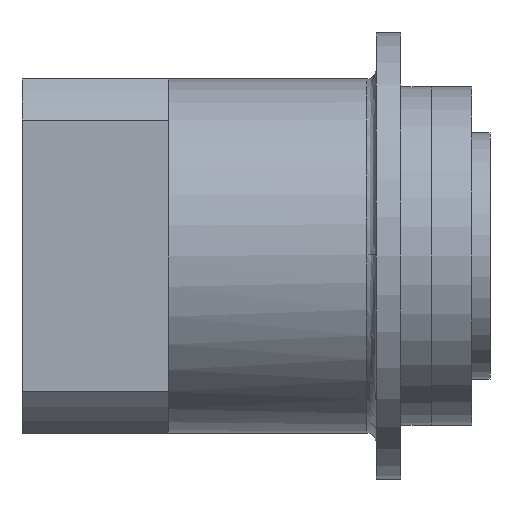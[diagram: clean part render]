
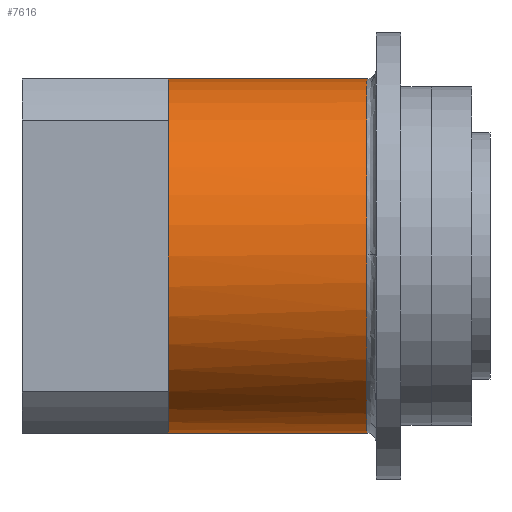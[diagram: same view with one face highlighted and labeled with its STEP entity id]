
A CAD part, left-side view. The second image highlights one B-rep face of the part: STEP entity #7616.
In plain terms, the highlighted cylindrical face has radius 57.5 mm (diameter 115 mm), a partial arc.
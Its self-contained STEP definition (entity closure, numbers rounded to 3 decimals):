
#65 = LINE ( 'NONE', #75, #2242 ) ;
#71 = CARTESIAN_POINT ( 'NONE',  ( 0., 5.225, -57.5 ) ) ;
#75 = CARTESIAN_POINT ( 'NONE',  ( 0., 5.225, 57.5 ) ) ;
#76 = LINE ( 'NONE', #71, #2250 ) ;
#80 = DIRECTION ( 'NONE',  ( 0., -1., 0. ) ) ;
#84 = DIRECTION ( 'NONE',  ( 0., -1., 0. ) ) ;
#1287 = EDGE_LOOP ( 'NONE', ( #1656, #1655, #1654, #1653, #1652, #1651 ) ) ;
#1651 = ORIENTED_EDGE ( 'NONE', *, *, #7602, .T. ) ;
#1652 = ORIENTED_EDGE ( 'NONE', *, *, #8186, .T. ) ;
#1653 = ORIENTED_EDGE ( 'NONE', *, *, #8383, .T. ) ;
#1654 = ORIENTED_EDGE ( 'NONE', *, *, #8190, .T. ) ;
#1655 = ORIENTED_EDGE ( 'NONE', *, *, #8187, .T. ) ;
#1656 = ORIENTED_EDGE ( 'NONE', *, *, #8385, .F. ) ;
#1841 = CARTESIAN_POINT ( 'NONE',  ( 0., -64.5, 0. ) ) ;
#1842 = DIRECTION ( 'NONE',  ( 0., 1., 0. ) ) ;
#1843 = DIRECTION ( 'NONE',  ( 0., 0., -1. ) ) ;
#1846 = CARTESIAN_POINT ( 'NONE',  ( 0., 0., 0. ) ) ;
#1847 = DIRECTION ( 'NONE',  ( 0., -1., 0. ) ) ;
#1848 = DIRECTION ( 'NONE',  ( 0., 0., -1. ) ) ;
#1977 = CARTESIAN_POINT ( 'NONE',  ( 0., 0., 0. ) ) ;
#1978 = DIRECTION ( 'NONE',  ( 0., -1., 0. ) ) ;
#1979 = DIRECTION ( 'NONE',  ( 0., 0., -1. ) ) ;
#2242 = VECTOR ( 'NONE', #84, 1000. ) ;
#2250 = VECTOR ( 'NONE', #80, 1000. ) ;
#2566 = AXIS2_PLACEMENT_3D ( 'NONE', #1977, #1978, #1979 ) ;
#2568 = AXIS2_PLACEMENT_3D ( 'NONE', #1846, #1847, #1848 ) ;
#2569 = CIRCLE ( 'NONE', #2566, 57.5 ) ;
#2570 = AXIS2_PLACEMENT_3D ( 'NONE', #1841, #1842, #1843 ) ;
#2571 = CIRCLE ( 'NONE', #2568, 57.5 ) ;
#2572 = CIRCLE ( 'NONE', #2570, 57.5 ) ;
#2646 = AXIS2_PLACEMENT_3D ( 'NONE', #8729, #8725, #8731 ) ;
#2663 = AXIS2_PLACEMENT_3D ( 'NONE', #9213, #9214, #9215 ) ;
#2669 = CIRCLE ( 'NONE', #2663, 57.5 ) ;
#3067 = VERTEX_POINT ( 'NONE', #6792 ) ;
#3069 = VERTEX_POINT ( 'NONE', #6794 ) ;
#3073 = VERTEX_POINT ( 'NONE', #6798 ) ;
#3076 = VERTEX_POINT ( 'NONE', #6801 ) ;
#3077 = VERTEX_POINT ( 'NONE', #6802 ) ;
#6792 = CARTESIAN_POINT ( 'NONE',  ( 0., -64.5, 57.5 ) ) ;
#6794 = CARTESIAN_POINT ( 'NONE',  ( -57.499, -64.5, 0.411 ) ) ;
#6798 = CARTESIAN_POINT ( 'NONE',  ( 0., 0., -57.5 ) ) ;
#6801 = CARTESIAN_POINT ( 'NONE',  ( 0., 0., 57.5 ) ) ;
#6802 = CARTESIAN_POINT ( 'NONE',  ( 0., -64.5, -57.5 ) ) ;
#7119 = CARTESIAN_POINT ( 'NONE',  ( -57.5, 0., 0. ) ) ;
#7378 = VERTEX_POINT ( 'NONE', #7119 ) ;
#7602 = EDGE_CURVE ( 'NONE', #3069, #3067, #2669, .T. ) ;
#7616 = ADVANCED_FACE ( 'NONE', ( #8728 ), #8727, .T. ) ;
#8186 = EDGE_CURVE ( 'NONE', #3077, #3069, #2572, .T. ) ;
#8187 = EDGE_CURVE ( 'NONE', #3076, #7378, #2571, .T. ) ;
#8190 = EDGE_CURVE ( 'NONE', #7378, #3073, #2569, .T. ) ;
#8383 = EDGE_CURVE ( 'NONE', #3073, #3077, #76, .T. ) ;
#8385 = EDGE_CURVE ( 'NONE', #3076, #3067, #65, .T. ) ;
#8725 = DIRECTION ( 'NONE',  ( 0., -1., 0. ) ) ;
#8727 = CYLINDRICAL_SURFACE ( 'NONE', #2646, 57.5 ) ;
#8728 = FACE_OUTER_BOUND ( 'NONE', #1287, .T. ) ;
#8729 = CARTESIAN_POINT ( 'NONE',  ( 0., 5.225, 0. ) ) ;
#8731 = DIRECTION ( 'NONE',  ( 0., 0., -1. ) ) ;
#9213 = CARTESIAN_POINT ( 'NONE',  ( 0., -64.5, 0. ) ) ;
#9214 = DIRECTION ( 'NONE',  ( 0., 1., 0. ) ) ;
#9215 = DIRECTION ( 'NONE',  ( 0., 0., -1. ) ) ;
